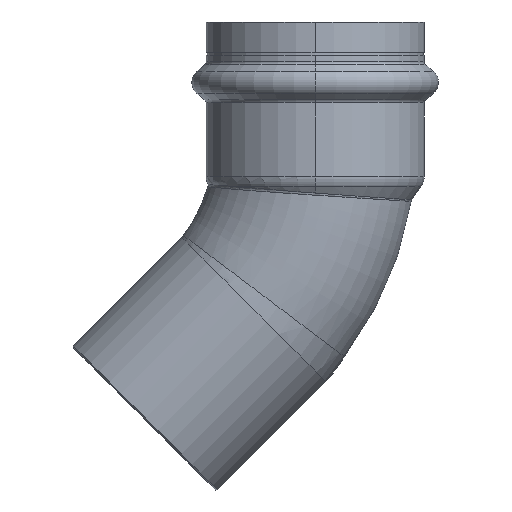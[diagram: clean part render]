
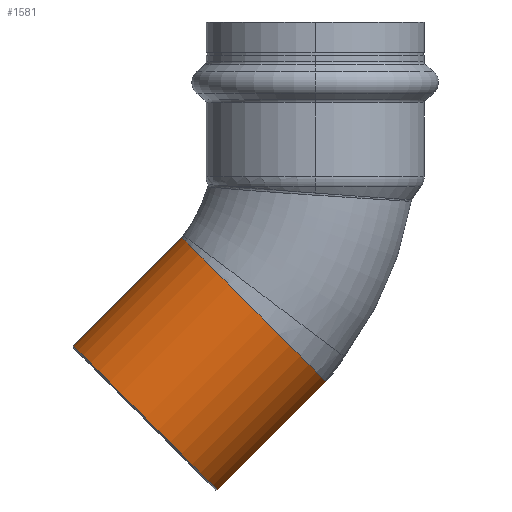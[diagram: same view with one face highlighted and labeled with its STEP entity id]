
A CAD part, left-side view. The second image highlights one B-rep face of the part: STEP entity #1581.
In plain terms, the highlighted cylindrical face has radius 27 mm (diameter 54 mm), a partial arc.
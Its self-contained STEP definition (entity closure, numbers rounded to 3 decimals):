
#49 = EDGE_LOOP ( 'NONE', ( #1591, #2119, #354, #1046 ) ) ;
#109 = CARTESIAN_POINT ( 'NONE',  ( 0., 44.972, -44.972 ) ) ;
#119 = DIRECTION ( 'NONE',  ( 0., -0.707, 0.707 ) ) ;
#148 = DIRECTION ( 'NONE',  ( 0., 0.707, 0.707 ) ) ;
#199 = VECTOR ( 'NONE', #2468, 1000. ) ;
#239 = CYLINDRICAL_SURFACE ( 'NONE', #2237, 27. ) ;
#251 = CARTESIAN_POINT ( 'NONE',  ( 0., 35.355, 2.828 ) ) ;
#309 = VERTEX_POINT ( 'NONE', #1459 ) ;
#328 = FACE_OUTER_BOUND ( 'NONE', #49, .T. ) ;
#354 = ORIENTED_EDGE ( 'NONE', *, *, #1981, .T. ) ;
#446 = VERTEX_POINT ( 'NONE', #251 ) ;
#504 = EDGE_CURVE ( 'NONE', #704, #309, #2291, .T. ) ;
#704 = VERTEX_POINT ( 'NONE', #1739 ) ;
#1043 = DIRECTION ( 'NONE',  ( 0., 0.707, -0.707 ) ) ;
#1046 = ORIENTED_EDGE ( 'NONE', *, *, #504, .T. ) ;
#1053 = AXIS2_PLACEMENT_3D ( 'NONE', #2067, #2074, #2049 ) ;
#1055 = CARTESIAN_POINT ( 'NONE',  ( 0., 24.371, -24.371 ) ) ;
#1127 = EDGE_CURVE ( 'NONE', #2653, #309, #2269, .T. ) ;
#1221 = VECTOR ( 'NONE', #1356, 1000. ) ;
#1356 = DIRECTION ( 'NONE',  ( 0., 0.707, -0.707 ) ) ;
#1459 = CARTESIAN_POINT ( 'NONE',  ( 0., 25.88, -64.064 ) ) ;
#1581 = ADVANCED_FACE ( 'NONE', ( #328 ), #239, .T. ) ;
#1591 = ORIENTED_EDGE ( 'NONE', *, *, #1127, .F. ) ;
#1739 = CARTESIAN_POINT ( 'NONE',  ( 0., 64.064, -25.88 ) ) ;
#1833 = DIRECTION ( 'NONE',  ( 0., 0.707, 0.707 ) ) ;
#1898 = CARTESIAN_POINT ( 'NONE',  ( 0., -2.828, -35.355 ) ) ;
#1981 = EDGE_CURVE ( 'NONE', #446, #704, #2403, .T. ) ;
#1994 = CARTESIAN_POINT ( 'NONE',  ( 0., 5.279, -43.463 ) ) ;
#2049 = DIRECTION ( 'NONE',  ( 0., 0.707, 0.707 ) ) ;
#2067 = CARTESIAN_POINT ( 'NONE',  ( 0., 16.263, -16.263 ) ) ;
#2074 = DIRECTION ( 'NONE',  ( 0., 0.707, -0.707 ) ) ;
#2119 = ORIENTED_EDGE ( 'NONE', *, *, #2543, .T. ) ;
#2237 = AXIS2_PLACEMENT_3D ( 'NONE', #1055, #1043, #1833 ) ;
#2269 = LINE ( 'NONE', #1994, #1221 ) ;
#2291 = CIRCLE ( 'NONE', #2529, 27. ) ;
#2403 = LINE ( 'NONE', #2458, #199 ) ;
#2458 = CARTESIAN_POINT ( 'NONE',  ( 0., 43.463, -5.279 ) ) ;
#2468 = DIRECTION ( 'NONE',  ( 0., 0.707, -0.707 ) ) ;
#2529 = AXIS2_PLACEMENT_3D ( 'NONE', #109, #119, #148 ) ;
#2543 = EDGE_CURVE ( 'NONE', #2653, #446, #2644, .T. ) ;
#2644 = CIRCLE ( 'NONE', #1053, 27. ) ;
#2653 = VERTEX_POINT ( 'NONE', #1898 ) ;
